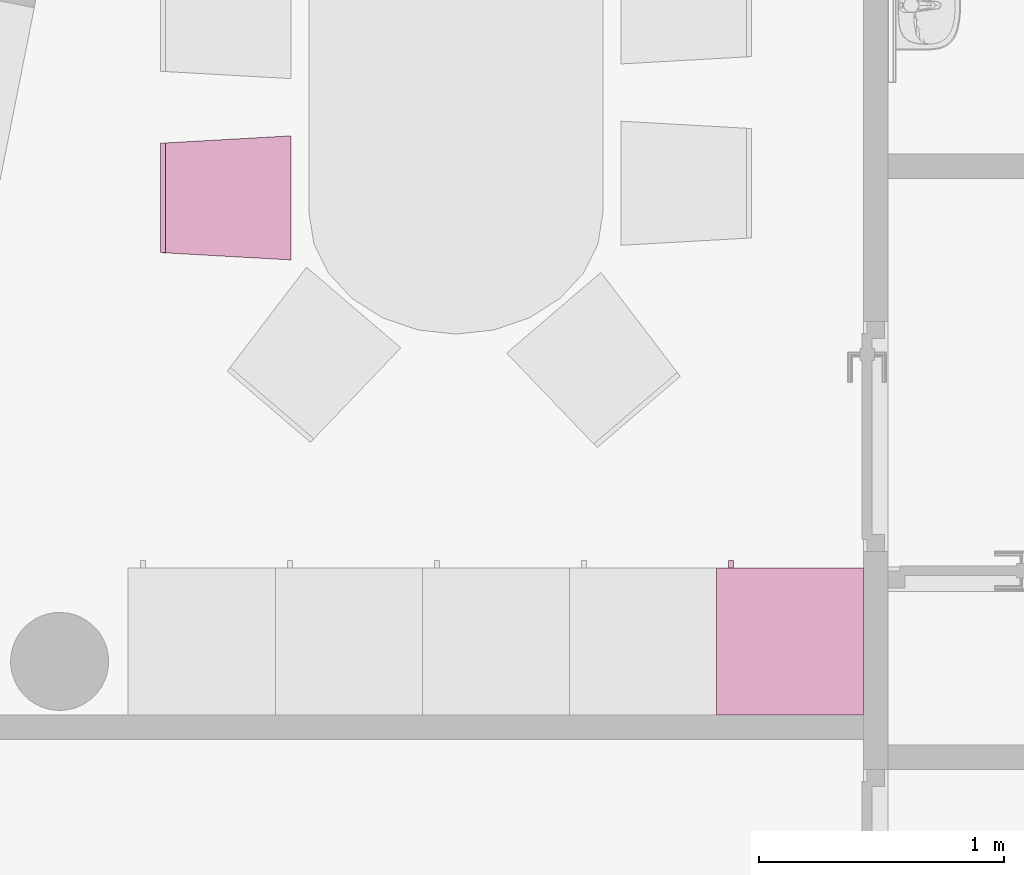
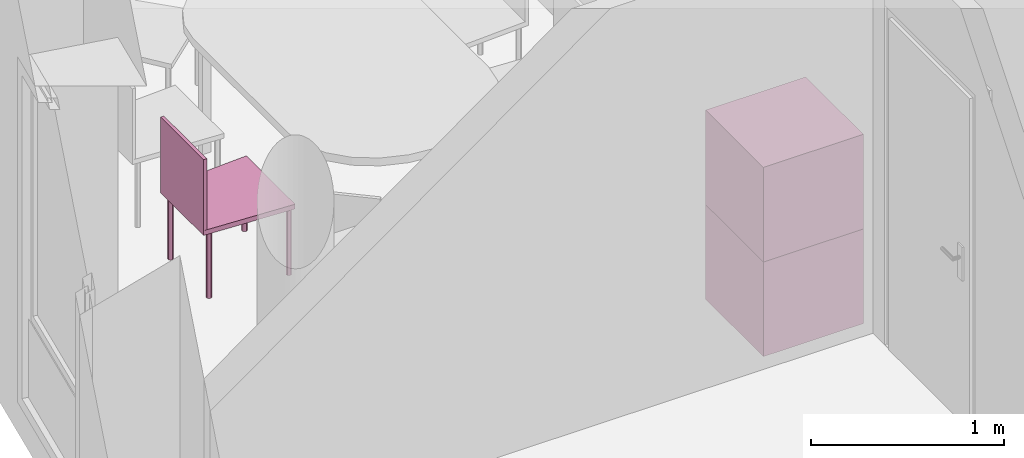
"""IFC4 building model written with IfcOpenShell, lengths in metres."""

from ifc_helpers import new_model, entity, si_unit, converted_unit, derived_unit, frame, origin, place, context, subcontext, project, spatial, faceted_brep, element, save


model = new_model("IFC4")

# Units and contexts
model_context = context("Model", 3, precision=1e-05, world=origin())
body_context = subcontext(model_context, "Body", "Model", "MODEL_VIEW")
ifc_project = project(units=[si_unit("LENGTHUNIT", "METRE"), si_unit("AREAUNIT", "SQUARE_METRE"), si_unit("VOLUMEUNIT", "CUBIC_METRE"), si_unit("MASSUNIT", "GRAM", prefix="KILO"), converted_unit("PLANEANGLEUNIT", "DEGREE", entity("IfcPlaneAngleMeasure", 0.0174532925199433), si_unit("PLANEANGLEUNIT", "RADIAN"), dimensions=[0, 0, 0, 0, 0, 0, 0]), derived_unit("THERMALTRANSMITTANCEUNIT", [(si_unit("POWERUNIT", "WATT"), 1), (si_unit("THERMODYNAMICTEMPERATUREUNIT", "KELVIN"), -1), (si_unit("LENGTHUNIT", "METRE"), -2)]), derived_unit("VOLUMETRICFLOWRATEUNIT", [(si_unit("LENGTHUNIT", "METRE"), 3), (converted_unit("TIMEUNIT", "hour", entity("IfcTimeMeasure", 3600.0), si_unit("TIMEUNIT", "SECOND"), dimensions=[0, 0, 1, 0, 0, 0, 0]), -1), (si_unit("LENGTHUNIT", "METRE"), -1)])], contexts=[model_context])

# Building, storeys
building_placement = place(None, origin())
building = spatial("IfcBuilding", under=ifc_project, at=building_placement, Name="HABITATGE PLURIFAMILIAR", CompositionType="ELEMENT")
storey_1_placement = place(building_placement, frame((0.0, 0.0, 18.29)))
storey_1 = spatial("IfcBuildingStorey", under=building, at=storey_1_placement, Name="PLANTA CINQUENA", CompositionType="ELEMENT", Elevation=18.29)
storey_2_placement = place(storey_1_placement, frame((0.0, 0.0, 15.28)))
storey_2 = spatial("IfcBuildingStorey", under=storey_1, at=storey_2_placement, Name="NOU", CompositionType="PARTIAL")

# Furniture
furniture_1_placement = place(storey_2_placement, frame((401.468889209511, 25.4977028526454, -15.28)))
element("IfcFurniture", 1, at=furniture_1_placement, inside=storey_2, Name="Cadira confident_P5", context=body_context, shape_type="Brep", body=[
    faceted_brep([(0.522448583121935, 0.0242257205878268, 0.0), (0.522221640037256, 0.0268196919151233, 0.0), (0.521547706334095, 0.0293348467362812, 0.0), (0.520447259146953, 0.0316947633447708, 0.0), (0.518953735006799, 0.0338277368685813, 0.0), (0.517112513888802, 0.0356689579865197, 0.0), (0.514979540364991, 0.0371624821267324, 0.0), (0.51261962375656, 0.0382629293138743, 0.0), (0.510104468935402, 0.0389368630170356, 0.0), (0.507510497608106, 0.0391638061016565, 0.0), (0.504916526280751, 0.0389368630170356, 0.0), (0.502401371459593, 0.0382629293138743, 0.0), (0.500041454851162, 0.0371624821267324, 0.0), (0.497908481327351, 0.0356689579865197, 0.0), (0.496067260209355, 0.0338277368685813, 0.0), (0.4945737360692, 0.0316947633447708, 0.0), (0.493473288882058, 0.0293348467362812, 0.0), (0.492799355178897, 0.0268196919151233, 0.0), (0.492572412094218, 0.0242257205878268, 0.0), (0.492799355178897, 0.0216317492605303, 0.0), (0.493473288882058, 0.0191165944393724, 0.0), (0.4945737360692, 0.0167566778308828, 0.0), (0.496067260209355, 0.0146237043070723, 0.0), (0.497908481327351, 0.0127824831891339, 0.0), (0.500041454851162, 0.0112889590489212, 0.0), (0.502401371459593, 0.0101885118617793, 0.0), (0.504916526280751, 0.00951457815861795, 0.0), (0.507510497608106, 0.00928763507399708, 0.0), (0.510104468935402, 0.00951457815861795, 0.0), (0.51261962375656, 0.0101885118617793, 0.0), (0.514979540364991, 0.0112889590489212, 0.0), (0.517112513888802, 0.0127824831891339, 0.0), (0.518953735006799, 0.0146237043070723, 0.0), (0.520447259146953, 0.0167566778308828, 0.0), (0.521547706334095, 0.0191165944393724, 0.0), (0.522221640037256, 0.0216317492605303, 0.0), (0.522448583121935, 0.0242257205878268, 0.448281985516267), (0.522221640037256, 0.0216317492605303, 0.448281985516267), (0.521547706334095, 0.0191165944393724, 0.448281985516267), (0.520447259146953, 0.0167566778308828, 0.448281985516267), (0.518953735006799, 0.0146237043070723, 0.448281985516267), (0.517112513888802, 0.0127824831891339, 0.448281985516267), (0.514979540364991, 0.0112889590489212, 0.448281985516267), (0.51261962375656, 0.0101885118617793, 0.448281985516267), (0.510104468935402, 0.00951457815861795, 0.448281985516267), (0.507510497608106, 0.00928763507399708, 0.448281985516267), (0.504916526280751, 0.00951457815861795, 0.448281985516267), (0.502401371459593, 0.0101885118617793, 0.448281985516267), (0.500041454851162, 0.0112889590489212, 0.448281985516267), (0.497908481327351, 0.0127824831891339, 0.448281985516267), (0.496067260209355, 0.0146237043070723, 0.448281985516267), (0.4945737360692, 0.0167566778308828, 0.448281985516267), (0.493473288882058, 0.0191165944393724, 0.448281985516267), (0.492799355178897, 0.0216317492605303, 0.448281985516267), (0.492572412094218, 0.0242257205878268, 0.448281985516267), (0.492799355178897, 0.0268196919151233, 0.448281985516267), (0.493473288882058, 0.0293348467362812, 0.448281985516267), (0.4945737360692, 0.0316947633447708, 0.448281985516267), (0.496067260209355, 0.0338277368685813, 0.448281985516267), (0.497908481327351, 0.0356689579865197, 0.448281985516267), (0.500041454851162, 0.0371624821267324, 0.448281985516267), (0.502401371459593, 0.0382629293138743, 0.448281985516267), (0.504916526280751, 0.0389368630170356, 0.448281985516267), (0.507510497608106, 0.0391638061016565, 0.448281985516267), (0.510104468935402, 0.0389368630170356, 0.448281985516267), (0.51261962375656, 0.0382629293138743, 0.448281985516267), (0.514979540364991, 0.0371624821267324, 0.448281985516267), (0.517112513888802, 0.0356689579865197, 0.448281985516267), (0.518953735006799, 0.0338277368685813, 0.448281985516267), (0.520447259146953, 0.0316947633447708, 0.448281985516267), (0.521547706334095, 0.0293348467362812, 0.448281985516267), (0.522221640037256, 0.0268196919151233, 0.448281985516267)], [[[0, 1, 2, 3, 4, 5, 6, 7, 8, 9, 10, 11, 12, 13, 14, 15, 16, 17, 18, 19, 20, 21, 22, 23, 24, 25, 26, 27, 28, 29, 30, 31, 32, 33, 34, 35]], [[36, 37, 38, 39, 40, 41, 42, 43, 44, 45, 46, 47, 48, 49, 50, 51, 52, 53, 54, 55, 56, 57, 58, 59, 60, 61, 62, 63, 64, 65, 66, 67, 68, 69, 70, 71]], [[1, 0, 36, 71]], [[2, 1, 71, 70]], [[3, 2, 70, 69]], [[4, 3, 69, 68]], [[5, 4, 68, 67]], [[6, 5, 67, 66]], [[7, 6, 66, 65]], [[8, 7, 65, 64]], [[9, 8, 64, 63]], [[10, 9, 63, 62]], [[11, 10, 62, 61]], [[12, 11, 61, 60]], [[13, 12, 60, 59]], [[14, 13, 59, 58]], [[15, 14, 58, 57]], [[16, 15, 57, 56]], [[17, 16, 56, 55]], [[18, 17, 55, 54]], [[19, 18, 54, 53]], [[20, 19, 53, 52]], [[21, 20, 52, 51]], [[22, 21, 51, 50]], [[23, 22, 50, 49]], [[24, 23, 49, 48]], [[25, 24, 48, 47]], [[26, 25, 47, 46]], [[27, 26, 46, 45]], [[28, 27, 45, 44]], [[29, 28, 44, 43]], [[30, 29, 43, 42]], [[31, 30, 42, 41]], [[32, 31, 41, 40]], [[33, 32, 40, 39]], [[34, 33, 39, 38]], [[35, 34, 38, 37]], [[0, 35, 37, 36]]], orient=[[False], [False], [False], [False], [False], [False], [False], [False], [False], [False], [False], [False], [False], [False], [False], [False], [False], [False], [False], [False], [False], [False], [False], [False], [False], [False], [False], [False], [False], [False], [False], [False], [False], [False], [False], [False], [False], [False]]),
    faceted_brep([(0.060041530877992, 0.0518637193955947, 0.0), (0.059814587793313, 0.0544576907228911, 0.0), (0.0591406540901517, 0.056972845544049, 0.0), (0.0580402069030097, 0.0593327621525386, 0.0), (0.0565466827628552, 0.0614657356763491, 0.0), (0.0547054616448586, 0.0633069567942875, 0.0), (0.0525724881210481, 0.0648004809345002, 0.0), (0.0502125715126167, 0.0659009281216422, 0.0), (0.0476974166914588, 0.0665748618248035, 0.0), (0.0451034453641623, 0.0668018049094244, 0.0), (0.0425094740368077, 0.0665748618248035, 0.0), (0.0399943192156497, 0.0659009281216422, 0.0), (0.0376344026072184, 0.0648004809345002, 0.0), (0.0355014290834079, 0.0633069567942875, 0.0), (0.0336602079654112, 0.0614657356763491, 0.0), (0.0321666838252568, 0.0593327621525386, 0.0), (0.0310662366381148, 0.056972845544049, 0.0), (0.0303923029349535, 0.0544576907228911, 0.0), (0.0301653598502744, 0.0518637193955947, 0.0), (0.0303923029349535, 0.0492697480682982, 0.0), (0.0310662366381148, 0.0467545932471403, 0.0), (0.0321666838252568, 0.0443946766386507, 0.0), (0.0336602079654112, 0.0422617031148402, 0.0), (0.0355014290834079, 0.0404204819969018, 0.0), (0.0376344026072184, 0.0389269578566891, 0.0), (0.0399943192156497, 0.0378265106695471, 0.0), (0.0425094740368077, 0.0371525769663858, 0.0), (0.0451034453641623, 0.036925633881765, 0.0), (0.0476974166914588, 0.0371525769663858, 0.0), (0.0502125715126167, 0.0378265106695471, 0.0), (0.0525724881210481, 0.0389269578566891, 0.0), (0.0547054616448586, 0.0404204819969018, 0.0), (0.0565466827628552, 0.0422617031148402, 0.0), (0.0580402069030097, 0.0443946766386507, 0.0), (0.0591406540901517, 0.0467545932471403, 0.0), (0.059814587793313, 0.0492697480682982, 0.0), (0.060041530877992, 0.0518637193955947, 0.448281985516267), (0.059814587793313, 0.0492697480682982, 0.448281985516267), (0.0591406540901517, 0.0467545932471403, 0.448281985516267), (0.0580402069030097, 0.0443946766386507, 0.448281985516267), (0.0565466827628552, 0.0422617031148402, 0.448281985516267), (0.0547054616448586, 0.0404204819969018, 0.448281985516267), (0.0525724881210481, 0.0389269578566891, 0.448281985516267), (0.0502125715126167, 0.0378265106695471, 0.448281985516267), (0.0476974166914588, 0.0371525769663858, 0.448281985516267), (0.0451034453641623, 0.036925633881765, 0.448281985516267), (0.0425094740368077, 0.0371525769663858, 0.448281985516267), (0.0399943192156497, 0.0378265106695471, 0.448281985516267), (0.0376344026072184, 0.0389269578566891, 0.448281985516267), (0.0355014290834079, 0.0404204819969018, 0.448281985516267), (0.0336602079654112, 0.0422617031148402, 0.448281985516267), (0.0321666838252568, 0.0443946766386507, 0.448281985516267), (0.0310662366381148, 0.0467545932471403, 0.448281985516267), (0.0303923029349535, 0.0492697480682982, 0.448281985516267), (0.0301653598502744, 0.0518637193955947, 0.448281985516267), (0.0303923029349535, 0.0544576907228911, 0.448281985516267), (0.0310662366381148, 0.056972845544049, 0.448281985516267), (0.0321666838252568, 0.0593327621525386, 0.448281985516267), (0.0336602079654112, 0.0614657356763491, 0.448281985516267), (0.0355014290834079, 0.0633069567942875, 0.448281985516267), (0.0376344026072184, 0.0648004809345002, 0.448281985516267), (0.0399943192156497, 0.0659009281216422, 0.448281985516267), (0.0425094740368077, 0.0665748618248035, 0.448281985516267), (0.0451034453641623, 0.0668018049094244, 0.448281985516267), (0.0476974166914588, 0.0665748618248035, 0.448281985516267), (0.0502125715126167, 0.0659009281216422, 0.448281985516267), (0.0525724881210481, 0.0648004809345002, 0.448281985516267), (0.0547054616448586, 0.0633069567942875, 0.448281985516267), (0.0565466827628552, 0.0614657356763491, 0.448281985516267), (0.0580402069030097, 0.0593327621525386, 0.448281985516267), (0.0591406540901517, 0.056972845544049, 0.448281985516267), (0.059814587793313, 0.0544576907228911, 0.448281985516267)], [[[0, 1, 2, 3, 4, 5, 6, 7, 8, 9, 10, 11, 12, 13, 14, 15, 16, 17, 18, 19, 20, 21, 22, 23, 24, 25, 26, 27, 28, 29, 30, 31, 32, 33, 34, 35]], [[36, 37, 38, 39, 40, 41, 42, 43, 44, 45, 46, 47, 48, 49, 50, 51, 52, 53, 54, 55, 56, 57, 58, 59, 60, 61, 62, 63, 64, 65, 66, 67, 68, 69, 70, 71]], [[1, 0, 36, 71]], [[2, 1, 71, 70]], [[3, 2, 70, 69]], [[4, 3, 69, 68]], [[5, 4, 68, 67]], [[6, 5, 67, 66]], [[7, 6, 66, 65]], [[8, 7, 65, 64]], [[9, 8, 64, 63]], [[10, 9, 63, 62]], [[11, 10, 62, 61]], [[12, 11, 61, 60]], [[13, 12, 60, 59]], [[14, 13, 59, 58]], [[15, 14, 58, 57]], [[16, 15, 57, 56]], [[17, 16, 56, 55]], [[18, 17, 55, 54]], [[19, 18, 54, 53]], [[20, 19, 53, 52]], [[21, 20, 52, 51]], [[22, 21, 51, 50]], [[23, 22, 50, 49]], [[24, 23, 49, 48]], [[25, 24, 48, 47]], [[26, 25, 47, 46]], [[27, 26, 46, 45]], [[28, 27, 45, 44]], [[29, 28, 44, 43]], [[30, 29, 43, 42]], [[31, 30, 42, 41]], [[32, 31, 41, 40]], [[33, 32, 40, 39]], [[34, 33, 39, 38]], [[35, 34, 38, 37]], [[0, 35, 37, 36]]], orient=[[False], [False], [False], [False], [False], [False], [False], [False], [False], [False], [False], [False], [False], [False], [False], [False], [False], [False], [False], [False], [False], [False], [False], [False], [False], [False], [False], [False], [False], [False], [False], [False], [False], [False], [False], [False], [False], [False]]),
    faceted_brep([(0.522448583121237, 0.484225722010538, 0.0), (0.522221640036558, 0.486819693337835, 0.0), (0.521547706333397, 0.489334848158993, 0.0), (0.520447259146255, 0.491694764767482, 0.0), (0.5189537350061, 0.493827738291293, 0.0), (0.517112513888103, 0.495668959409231, 0.0), (0.514979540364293, 0.497162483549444, 0.0), (0.512619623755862, 0.498262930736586, 0.0), (0.510104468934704, 0.498936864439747, 0.0), (0.507510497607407, 0.499163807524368, 0.0), (0.504916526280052, 0.498936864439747, 0.0), (0.502401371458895, 0.498262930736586, 0.0), (0.500041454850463, 0.497162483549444, 0.0), (0.497908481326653, 0.495668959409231, 0.0), (0.496067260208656, 0.493827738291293, 0.0), (0.494573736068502, 0.491694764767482, 0.0), (0.49347328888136, 0.489334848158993, 0.0), (0.492799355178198, 0.486819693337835, 0.0), (0.492572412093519, 0.484225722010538, 0.0), (0.492799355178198, 0.481631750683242, 0.0), (0.49347328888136, 0.479116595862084, 0.0), (0.494573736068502, 0.476756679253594, 0.0), (0.496067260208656, 0.474623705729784, 0.0), (0.497908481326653, 0.472782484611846, 0.0), (0.500041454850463, 0.471288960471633, 0.0), (0.502401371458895, 0.470188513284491, 0.0), (0.504916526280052, 0.46951457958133, 0.0), (0.507510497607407, 0.469287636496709, 0.0), (0.510104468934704, 0.46951457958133, 0.0), (0.512619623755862, 0.470188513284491, 0.0), (0.514979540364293, 0.471288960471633, 0.0), (0.517112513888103, 0.472782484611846, 0.0), (0.5189537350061, 0.474623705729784, 0.0), (0.520447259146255, 0.476756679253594, 0.0), (0.521547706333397, 0.479116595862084, 0.0), (0.522221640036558, 0.481631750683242, 0.0), (0.522448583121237, 0.484225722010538, 0.448281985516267), (0.522221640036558, 0.481631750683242, 0.448281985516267), (0.521547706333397, 0.479116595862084, 0.448281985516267), (0.520447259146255, 0.476756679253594, 0.448281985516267), (0.5189537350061, 0.474623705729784, 0.448281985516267), (0.517112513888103, 0.472782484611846, 0.448281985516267), (0.514979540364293, 0.471288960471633, 0.448281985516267), (0.512619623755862, 0.470188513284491, 0.448281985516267), (0.510104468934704, 0.46951457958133, 0.448281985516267), (0.507510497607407, 0.469287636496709, 0.448281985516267), (0.504916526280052, 0.46951457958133, 0.448281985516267), (0.502401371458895, 0.470188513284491, 0.448281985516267), (0.500041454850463, 0.471288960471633, 0.448281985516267), (0.497908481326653, 0.472782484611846, 0.448281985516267), (0.496067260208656, 0.474623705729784, 0.448281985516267), (0.494573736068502, 0.476756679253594, 0.448281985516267), (0.49347328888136, 0.479116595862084, 0.448281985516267), (0.492799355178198, 0.481631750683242, 0.448281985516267), (0.492572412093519, 0.484225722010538, 0.448281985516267), (0.492799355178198, 0.486819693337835, 0.448281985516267), (0.49347328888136, 0.489334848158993, 0.448281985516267), (0.494573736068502, 0.491694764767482, 0.448281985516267), (0.496067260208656, 0.493827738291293, 0.448281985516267), (0.497908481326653, 0.495668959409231, 0.448281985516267), (0.500041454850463, 0.497162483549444, 0.448281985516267), (0.502401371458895, 0.498262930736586, 0.448281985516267), (0.504916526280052, 0.498936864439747, 0.448281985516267), (0.507510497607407, 0.499163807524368, 0.448281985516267), (0.510104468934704, 0.498936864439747, 0.448281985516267), (0.512619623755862, 0.498262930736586, 0.448281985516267), (0.514979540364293, 0.497162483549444, 0.448281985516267), (0.517112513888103, 0.495668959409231, 0.448281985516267), (0.5189537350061, 0.493827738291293, 0.448281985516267), (0.520447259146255, 0.491694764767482, 0.448281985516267), (0.521547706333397, 0.489334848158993, 0.448281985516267), (0.522221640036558, 0.486819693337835, 0.448281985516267)], [[[0, 1, 2, 3, 4, 5, 6, 7, 8, 9, 10, 11, 12, 13, 14, 15, 16, 17, 18, 19, 20, 21, 22, 23, 24, 25, 26, 27, 28, 29, 30, 31, 32, 33, 34, 35]], [[36, 37, 38, 39, 40, 41, 42, 43, 44, 45, 46, 47, 48, 49, 50, 51, 52, 53, 54, 55, 56, 57, 58, 59, 60, 61, 62, 63, 64, 65, 66, 67, 68, 69, 70, 71]], [[1, 0, 36, 71]], [[2, 1, 71, 70]], [[3, 2, 70, 69]], [[4, 3, 69, 68]], [[5, 4, 68, 67]], [[6, 5, 67, 66]], [[7, 6, 66, 65]], [[8, 7, 65, 64]], [[9, 8, 64, 63]], [[10, 9, 63, 62]], [[11, 10, 62, 61]], [[12, 11, 61, 60]], [[13, 12, 60, 59]], [[14, 13, 59, 58]], [[15, 14, 58, 57]], [[16, 15, 57, 56]], [[17, 16, 56, 55]], [[18, 17, 55, 54]], [[19, 18, 54, 53]], [[20, 19, 53, 52]], [[21, 20, 52, 51]], [[22, 21, 51, 50]], [[23, 22, 50, 49]], [[24, 23, 49, 48]], [[25, 24, 48, 47]], [[26, 25, 47, 46]], [[27, 26, 46, 45]], [[28, 27, 45, 44]], [[29, 28, 44, 43]], [[30, 29, 43, 42]], [[31, 30, 42, 41]], [[32, 31, 41, 40]], [[33, 32, 40, 39]], [[34, 33, 39, 38]], [[35, 34, 38, 37]], [[0, 35, 37, 36]]], orient=[[False], [False], [False], [False], [False], [False], [False], [False], [False], [False], [False], [False], [False], [False], [False], [False], [False], [False], [False], [False], [False], [False], [False], [False], [False], [False], [False], [False], [False], [False], [False], [False], [False], [False], [False], [False], [False], [False]]),
    faceted_brep([(0.0600415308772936, 0.451863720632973, 0.0), (0.0598145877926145, 0.45445769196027, 0.0), (0.0591406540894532, 0.456972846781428, 0.0), (0.0580402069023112, 0.459332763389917, 0.0), (0.0565466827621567, 0.461465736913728, 0.0), (0.0547054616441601, 0.463306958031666, 0.0), (0.0525724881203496, 0.464800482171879, 0.0), (0.0502125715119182, 0.465900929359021, 0.0), (0.0476974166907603, 0.466574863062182, 0.0), (0.0451034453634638, 0.466801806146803, 0.0), (0.0425094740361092, 0.466574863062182, 0.0), (0.0399943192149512, 0.465900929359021, 0.0), (0.0376344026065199, 0.464800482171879, 0.0), (0.0355014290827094, 0.463306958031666, 0.0), (0.0336602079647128, 0.461465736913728, 0.0), (0.0321666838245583, 0.459332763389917, 0.0), (0.0310662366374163, 0.456972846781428, 0.0), (0.030392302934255, 0.45445769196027, 0.0), (0.0301653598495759, 0.451863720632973, 0.0), (0.030392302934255, 0.449269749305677, 0.0), (0.0310662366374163, 0.446754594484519, 0.0), (0.0321666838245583, 0.444394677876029, 0.0), (0.0336602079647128, 0.442261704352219, 0.0), (0.0355014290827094, 0.44042048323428, 0.0), (0.0376344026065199, 0.438926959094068, 0.0), (0.0399943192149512, 0.437826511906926, 0.0), (0.0425094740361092, 0.437152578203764, 0.0), (0.0451034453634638, 0.436925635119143, 0.0), (0.0476974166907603, 0.437152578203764, 0.0), (0.0502125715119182, 0.437826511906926, 0.0), (0.0525724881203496, 0.438926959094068, 0.0), (0.0547054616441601, 0.44042048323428, 0.0), (0.0565466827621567, 0.442261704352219, 0.0), (0.0580402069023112, 0.444394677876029, 0.0), (0.0591406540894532, 0.446754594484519, 0.0), (0.0598145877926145, 0.449269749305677, 0.0), (0.0600415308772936, 0.451863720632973, 0.448281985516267), (0.0598145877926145, 0.449269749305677, 0.448281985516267), (0.0591406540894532, 0.446754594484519, 0.448281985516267), (0.0580402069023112, 0.444394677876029, 0.448281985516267), (0.0565466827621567, 0.442261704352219, 0.448281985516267), (0.0547054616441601, 0.44042048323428, 0.448281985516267), (0.0525724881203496, 0.438926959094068, 0.448281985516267), (0.0502125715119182, 0.437826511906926, 0.448281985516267), (0.0476974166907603, 0.437152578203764, 0.448281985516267), (0.0451034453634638, 0.436925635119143, 0.448281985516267), (0.0425094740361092, 0.437152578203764, 0.448281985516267), (0.0399943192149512, 0.437826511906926, 0.448281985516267), (0.0376344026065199, 0.438926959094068, 0.448281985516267), (0.0355014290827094, 0.44042048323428, 0.448281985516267), (0.0336602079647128, 0.442261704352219, 0.448281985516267), (0.0321666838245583, 0.444394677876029, 0.448281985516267), (0.0310662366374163, 0.446754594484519, 0.448281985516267), (0.030392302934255, 0.449269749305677, 0.448281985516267), (0.0301653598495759, 0.451863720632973, 0.448281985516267), (0.030392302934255, 0.45445769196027, 0.448281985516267), (0.0310662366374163, 0.456972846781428, 0.448281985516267), (0.0321666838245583, 0.459332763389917, 0.448281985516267), (0.0336602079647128, 0.461465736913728, 0.448281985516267), (0.0355014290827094, 0.463306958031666, 0.448281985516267), (0.0376344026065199, 0.464800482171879, 0.448281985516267), (0.0399943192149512, 0.465900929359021, 0.448281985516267), (0.0425094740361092, 0.466574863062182, 0.448281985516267), (0.0451034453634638, 0.466801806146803, 0.448281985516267), (0.0476974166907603, 0.466574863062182, 0.448281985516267), (0.0502125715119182, 0.465900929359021, 0.448281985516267), (0.0525724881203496, 0.464800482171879, 0.448281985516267), (0.0547054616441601, 0.463306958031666, 0.448281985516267), (0.0565466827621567, 0.461465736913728, 0.448281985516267), (0.0580402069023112, 0.459332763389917, 0.448281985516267), (0.0591406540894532, 0.456972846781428, 0.448281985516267), (0.0598145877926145, 0.45445769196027, 0.448281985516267)], [[[0, 1, 2, 3, 4, 5, 6, 7, 8, 9, 10, 11, 12, 13, 14, 15, 16, 17, 18, 19, 20, 21, 22, 23, 24, 25, 26, 27, 28, 29, 30, 31, 32, 33, 34, 35]], [[36, 37, 38, 39, 40, 41, 42, 43, 44, 45, 46, 47, 48, 49, 50, 51, 52, 53, 54, 55, 56, 57, 58, 59, 60, 61, 62, 63, 64, 65, 66, 67, 68, 69, 70, 71]], [[1, 0, 36, 71]], [[2, 1, 71, 70]], [[3, 2, 70, 69]], [[4, 3, 69, 68]], [[5, 4, 68, 67]], [[6, 5, 67, 66]], [[7, 6, 66, 65]], [[8, 7, 65, 64]], [[9, 8, 64, 63]], [[10, 9, 63, 62]], [[11, 10, 62, 61]], [[12, 11, 61, 60]], [[13, 12, 60, 59]], [[14, 13, 59, 58]], [[15, 14, 58, 57]], [[16, 15, 57, 56]], [[17, 16, 56, 55]], [[18, 17, 55, 54]], [[19, 18, 54, 53]], [[20, 19, 53, 52]], [[21, 20, 52, 51]], [[22, 21, 51, 50]], [[23, 22, 50, 49]], [[24, 23, 49, 48]], [[25, 24, 48, 47]], [[26, 25, 47, 46]], [[27, 26, 46, 45]], [[28, 27, 45, 44]], [[29, 28, 44, 43]], [[30, 29, 43, 42]], [[31, 30, 42, 41]], [[32, 31, 41, 40]], [[33, 32, 40, 39]], [[34, 33, 39, 38]], [[35, 34, 38, 37]], [[0, 35, 37, 36]]], orient=[[False], [False], [False], [False], [False], [False], [False], [False], [False], [False], [False], [False], [False], [False], [False], [False], [False], [False], [False], [False], [False], [False], [False], [False], [False], [False], [False], [False], [False], [False], [False], [False], [False], [False], [False], [False], [False], [False]]),
    faceted_brep([(0.0, 0.4765147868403, 0.41828198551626), (0.0, 0.0300000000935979, 0.41828198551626), (0.532607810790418, 0.0, 0.41828198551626), (0.532607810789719, 0.506514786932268, 0.41828198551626), (0.532607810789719, 0.506514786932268, 0.448281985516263), (0.532607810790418, 0.0, 0.448281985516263), (0.0, 0.0300000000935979, 0.448281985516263), (0.0, 0.4765147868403, 0.448281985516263)], [[[0, 1, 2, 3]], [[4, 5, 6, 7]], [[3, 4, 7, 0]], [[2, 5, 4, 3]], [[1, 6, 5, 2]], [[0, 7, 6, 1]]], orient=[[False], [False], [False], [False], [False], [False]]),
    faceted_brep([(0.0200000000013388, 0.4765147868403, 0.448281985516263), (0.0, 0.4765147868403, 0.448281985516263), (0.0, 0.0300000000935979, 0.448281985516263), (0.0200000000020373, 0.0300000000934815, 0.448281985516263), (0.0200000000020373, 0.0300000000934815, 0.898281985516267), (0.0, 0.0300000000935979, 0.898281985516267), (0.0, 0.4765147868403, 0.898281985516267), (0.0200000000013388, 0.4765147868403, 0.898281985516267)], [[[0, 1, 2, 3]], [[4, 5, 6, 7]], [[3, 4, 7, 0]], [[2, 5, 4, 3]], [[1, 6, 5, 2]], [[0, 7, 6, 1]]], orient=[[False], [False], [False], [False], [False], [False]]),
])
furniture_2_placement = place(storey_2_placement, frame((403.736984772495, 23.6406730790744, -15.2800000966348)))
element("IfcFurniture", 2, at=furniture_2_placement, inside=storey_2, Name="Armai 60x60x60_P5", context=body_context, shape_type="Brep", body=[
    faceted_brep([(0.0, 0.6, 0.02), (0.0, 0.6, 0.0), (0.6, 0.6, 0.0), (0.6, 0.6, 0.02), (0.6, 0.0, 0.0), (0.6, 0.0, 0.02), (0.0, 0.0, 0.0), (0.0, 0.0, 0.02)], [[[0, 1, 2, 3]], [[3, 2, 4, 5]], [[5, 4, 6, 7]], [[7, 6, 1, 0]], [[0, 3, 5, 7]], [[1, 6, 4, 2]]], orient=[[False], [False], [False], [False], [False], [False]]),
    faceted_brep([(0.580000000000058, 0.0, 0.58), (0.580000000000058, 0.0200000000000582, 0.58), (0.580000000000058, 0.0200000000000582, 0.02), (0.580000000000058, 0.0, 0.02), (0.0200000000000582, 0.0200000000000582, 0.02), (0.0200000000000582, 0.0, 0.02), (0.0200000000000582, 0.0200000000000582, 0.58), (0.0200000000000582, 0.0, 0.58)], [[[0, 1, 2, 3]], [[3, 2, 4, 5]], [[5, 4, 6, 7]], [[7, 6, 1, 0]], [[0, 3, 5, 7]], [[1, 6, 4, 2]]], orient=[[False], [False], [False], [False], [False], [False]]),
    faceted_brep([(0.0200000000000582, 0.6, 0.58), (0.0, 0.6, 0.58), (0.0, 0.6, 0.02), (0.0200000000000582, 0.6, 0.02), (0.0, 0.0, 0.02), (0.0200000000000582, 0.0, 0.02), (0.0, 0.0, 0.58), (0.0200000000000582, 0.0, 0.58)], [[[0, 1, 2, 3]], [[3, 2, 4, 5]], [[5, 4, 6, 7]], [[7, 6, 1, 0]], [[0, 3, 5, 7]], [[1, 6, 4, 2]]], orient=[[False], [False], [False], [False], [False], [False]]),
    faceted_brep([(0.0, 0.58, 0.58), (0.0, 0.6, 0.58), (0.0, 0.6, 0.02), (0.0, 0.58, 0.02), (0.02, 0.6, 0.02), (0.02, 0.58, 0.02), (0.02, 0.6, 0.58), (0.02, 0.58, 0.58)], [[[0, 1, 2, 3]], [[3, 2, 4, 5]], [[5, 4, 6, 7]], [[7, 6, 1, 0]], [[0, 3, 5, 7]], [[1, 6, 4, 2]]], orient=[[False], [False], [False], [False], [False], [False]]),
    faceted_brep([(0.6, 0.6, 0.58), (0.58, 0.6, 0.58), (0.58, 0.6, 0.02), (0.6, 0.6, 0.02), (0.58, 0.0, 0.02), (0.6, 0.0, 0.02), (0.58, 0.0, 0.58), (0.6, 0.0, 0.58)], [[[0, 1, 2, 3]], [[3, 2, 4, 5]], [[5, 4, 6, 7]], [[7, 6, 1, 0]], [[0, 3, 5, 7]], [[1, 6, 4, 2]]], orient=[[False], [False], [False], [False], [False], [False]]),
    faceted_brep([(0.0, 0.600000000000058, 0.6), (0.0, 0.600000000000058, 0.58), (0.600000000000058, 0.600000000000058, 0.58), (0.600000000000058, 0.600000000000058, 0.6), (0.600000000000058, 0.0, 0.58), (0.600000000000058, 0.0, 0.6), (0.0, 0.0, 0.58), (0.0, 0.0, 0.6)], [[[0, 1, 2, 3]], [[3, 2, 4, 5]], [[5, 4, 6, 7]], [[7, 6, 1, 0]], [[0, 3, 5, 7]], [[1, 6, 4, 2]]], orient=[[False], [False], [False], [False], [False], [False]]),
    faceted_brep([(0.580000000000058, 0.580000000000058, 0.58), (0.580000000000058, 0.600000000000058, 0.58), (0.580000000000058, 0.600000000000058, 0.02), (0.580000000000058, 0.580000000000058, 0.02), (0.02, 0.600000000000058, 0.02), (0.02, 0.580000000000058, 0.02), (0.02, 0.600000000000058, 0.58), (0.02, 0.580000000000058, 0.58)], [[[0, 1, 2, 3]], [[3, 2, 4, 5]], [[5, 4, 6, 7]], [[7, 6, 1, 0]], [[0, 3, 5, 7]], [[1, 6, 4, 2]]], orient=[[False], [False], [False], [False], [False], [False]]),
    faceted_brep([(0.0700000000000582, 0.600000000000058, 0.358064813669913), (0.0700000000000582, 0.630000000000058, 0.358064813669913), (0.0700000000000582, 0.630000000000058, 0.258064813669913), (0.0700000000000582, 0.600000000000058, 0.258064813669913), (0.0500000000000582, 0.630000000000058, 0.258064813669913), (0.0500000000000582, 0.600000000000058, 0.258064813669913), (0.0500000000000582, 0.630000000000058, 0.358064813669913), (0.0500000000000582, 0.600000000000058, 0.358064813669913)], [[[0, 1, 2, 3]], [[3, 2, 4, 5]], [[5, 4, 6, 7]], [[7, 6, 1, 0]], [[0, 3, 5, 7]], [[1, 6, 4, 2]]], orient=[[False], [False], [False], [False], [False], [False]]),
])
furniture_3_placement = place(storey_2_placement, frame((403.736984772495, 23.6406730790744, -14.6800000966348)))
element("IfcFurniture", 3, at=furniture_3_placement, inside=storey_2, Name="Armai 60x60x60_P5", context=body_context, shape_type="Brep", body=[
    faceted_brep([(0.0, 0.6, 0.02), (0.0, 0.6, 0.0), (0.6, 0.6, 0.0), (0.6, 0.6, 0.02), (0.6, 0.0, 0.0), (0.6, 0.0, 0.02), (0.0, 0.0, 0.0), (0.0, 0.0, 0.02)], [[[0, 1, 2, 3]], [[3, 2, 4, 5]], [[5, 4, 6, 7]], [[7, 6, 1, 0]], [[0, 3, 5, 7]], [[1, 6, 4, 2]]], orient=[[False], [False], [False], [False], [False], [False]]),
    faceted_brep([(0.580000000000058, 0.0, 0.58), (0.580000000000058, 0.0200000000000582, 0.58), (0.580000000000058, 0.0200000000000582, 0.02), (0.580000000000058, 0.0, 0.02), (0.0200000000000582, 0.0200000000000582, 0.02), (0.0200000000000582, 0.0, 0.02), (0.0200000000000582, 0.0200000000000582, 0.58), (0.0200000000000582, 0.0, 0.58)], [[[0, 1, 2, 3]], [[3, 2, 4, 5]], [[5, 4, 6, 7]], [[7, 6, 1, 0]], [[0, 3, 5, 7]], [[1, 6, 4, 2]]], orient=[[False], [False], [False], [False], [False], [False]]),
    faceted_brep([(0.0200000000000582, 0.6, 0.58), (0.0, 0.6, 0.58), (0.0, 0.6, 0.02), (0.0200000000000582, 0.6, 0.02), (0.0, 0.0, 0.02), (0.0200000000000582, 0.0, 0.02), (0.0, 0.0, 0.58), (0.0200000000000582, 0.0, 0.58)], [[[0, 1, 2, 3]], [[3, 2, 4, 5]], [[5, 4, 6, 7]], [[7, 6, 1, 0]], [[0, 3, 5, 7]], [[1, 6, 4, 2]]], orient=[[False], [False], [False], [False], [False], [False]]),
    faceted_brep([(0.0, 0.58, 0.58), (0.0, 0.6, 0.58), (0.0, 0.6, 0.02), (0.0, 0.58, 0.02), (0.02, 0.6, 0.02), (0.02, 0.58, 0.02), (0.02, 0.6, 0.58), (0.02, 0.58, 0.58)], [[[0, 1, 2, 3]], [[3, 2, 4, 5]], [[5, 4, 6, 7]], [[7, 6, 1, 0]], [[0, 3, 5, 7]], [[1, 6, 4, 2]]], orient=[[False], [False], [False], [False], [False], [False]]),
    faceted_brep([(0.6, 0.6, 0.58), (0.58, 0.6, 0.58), (0.58, 0.6, 0.02), (0.6, 0.6, 0.02), (0.58, 0.0, 0.02), (0.6, 0.0, 0.02), (0.58, 0.0, 0.58), (0.6, 0.0, 0.58)], [[[0, 1, 2, 3]], [[3, 2, 4, 5]], [[5, 4, 6, 7]], [[7, 6, 1, 0]], [[0, 3, 5, 7]], [[1, 6, 4, 2]]], orient=[[False], [False], [False], [False], [False], [False]]),
    faceted_brep([(0.0, 0.600000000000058, 0.6), (0.0, 0.600000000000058, 0.58), (0.600000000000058, 0.600000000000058, 0.58), (0.600000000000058, 0.600000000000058, 0.6), (0.600000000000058, 0.0, 0.58), (0.600000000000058, 0.0, 0.6), (0.0, 0.0, 0.58), (0.0, 0.0, 0.6)], [[[0, 1, 2, 3]], [[3, 2, 4, 5]], [[5, 4, 6, 7]], [[7, 6, 1, 0]], [[0, 3, 5, 7]], [[1, 6, 4, 2]]], orient=[[False], [False], [False], [False], [False], [False]]),
    faceted_brep([(0.580000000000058, 0.580000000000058, 0.58), (0.580000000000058, 0.600000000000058, 0.58), (0.580000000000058, 0.600000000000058, 0.02), (0.580000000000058, 0.580000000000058, 0.02), (0.02, 0.600000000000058, 0.02), (0.02, 0.580000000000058, 0.02), (0.02, 0.600000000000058, 0.58), (0.02, 0.580000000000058, 0.58)], [[[0, 1, 2, 3]], [[3, 2, 4, 5]], [[5, 4, 6, 7]], [[7, 6, 1, 0]], [[0, 3, 5, 7]], [[1, 6, 4, 2]]], orient=[[False], [False], [False], [False], [False], [False]]),
    faceted_brep([(0.0700000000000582, 0.600000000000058, 0.358064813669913), (0.0700000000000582, 0.630000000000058, 0.358064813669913), (0.0700000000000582, 0.630000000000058, 0.258064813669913), (0.0700000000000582, 0.600000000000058, 0.258064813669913), (0.0500000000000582, 0.630000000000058, 0.258064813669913), (0.0500000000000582, 0.600000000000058, 0.258064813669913), (0.0500000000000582, 0.630000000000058, 0.358064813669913), (0.0500000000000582, 0.600000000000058, 0.358064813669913)], [[[0, 1, 2, 3]], [[3, 2, 4, 5]], [[5, 4, 6, 7]], [[7, 6, 1, 0]], [[0, 3, 5, 7]], [[1, 6, 4, 2]]], orient=[[False], [False], [False], [False], [False], [False]]),
])

save(model, "model.ifc")
